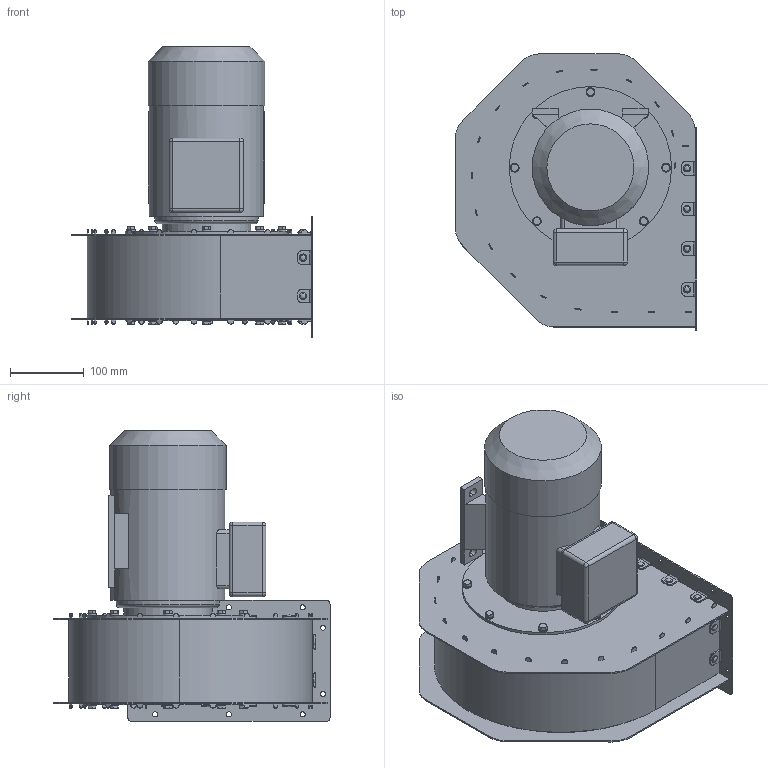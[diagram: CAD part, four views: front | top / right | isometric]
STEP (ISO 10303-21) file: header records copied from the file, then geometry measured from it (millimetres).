
FILE_DESCRIPTION(/* description */ (''),/* implementation_level */ '2;1');
FILE_NAME(/* name */ 'T:\Drawings\Standard Drawings\DATA Web Downloads\3D FILES\HFM-180-74 _ 3D13-0293.stp',/* time_stamp */ '2015-02-18T13:51:37+00:00',/* author */ ('mtinkler'),/* organization */ (''),/* preprocessor_version */ 'ST-DEVELOPER v15.6',/* originating_system */ 'Autodesk Inventor 2015',/* authorisation */ '');
FILE_SCHEMA (('AUTOMOTIVE_DESIGN { 1 0 10303 214 3 1 1 }'));
Length unit declared in the file: millimetre
Products named in the file (14): H-180-S0000; H-180-S0001; H-180-S0002; 4-139; H-180-F0000; H-180-M0000; H-180-D0000; H-180-G0000; 8-B34006-IE2-A; ASME_ANSI B18.3.5M - M6x16(2); ANSI B18.2.3.5M - M6 x 1 x 20; DIN 127 - A 6; IFI 520 - 63 x 4(4); 3D13-0293
Assembly tree (73 placements, depth 3):
  3D13-0293
    H-180-F0000
      H-180-S0000  x2
      H-180-S0001
      H-180-S0002
      4-139  x16
    H-180-M0000
    H-180-D0000
    H-180-G0000
    8-B34006-IE2-A
    ASME_ANSI B18.3.5M - M6x16(2)  x4
    ANSI B18.2.3.5M - M6 x 1 x 20  x16
    DIN 127 - A 6  x16
    IFI 520 - 63 x 4(4)  x12
Bounding box: 327 x 374 x 394 mm (x, y, z)
Volume: 5921446.9 mm3; surface area: 953051.9 mm2
Topology: 72 solids, 72 shells, 1495 faces, 3655 edges, 2361 vertices
Faces by surface type: plane 827, cylinder 452, cone 147, torus 37, sphere 20, bspline 12
Full cylindrical faces by diameter (mm): 4.8 x12, 4.917 x5, 5 x24, 6 x36, 6.5 x20, 7 x10, 9 x16, 9.1 x16, 11.7 x4, 19 x1, 23.376 x1, 70 x1, 80 x1, 82 x1, 120 x1, 140 x1, 143 x1, 145.4 x1, 155 x1, 158 x1, 190 x2, 220 x2
Entity records: 25882 total; most frequent: CARTESIAN_POINT 5466, DIRECTION 4192, ORIENTED_EDGE 3958, EDGE_CURVE 1979, AXIS2_PLACEMENT_3D 1478, VERTEX_POINT 1330, LINE 1236, VECTOR 1236
